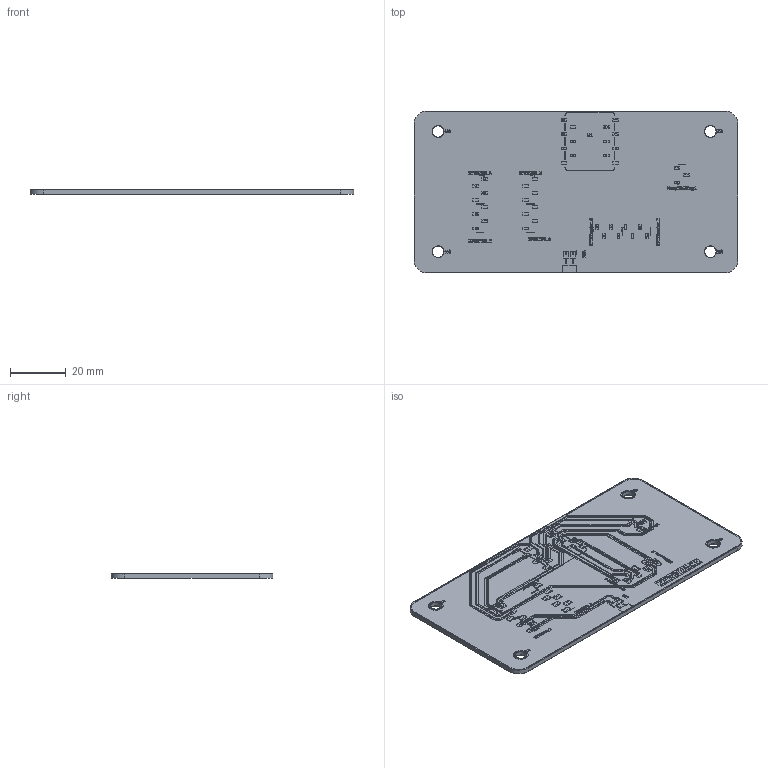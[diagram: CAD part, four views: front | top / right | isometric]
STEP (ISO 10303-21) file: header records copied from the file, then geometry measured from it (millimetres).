
FILE_DESCRIPTION(('KiCad electronic assembly'),'2;1');
FILE_NAME('final_pro.step','2026-05-11T16:51:19',('Pcbnew'),('Kicad'), 'Open CASCADE STEP processor 7.8','KiCad to STEP converter','Unknown' );
FILE_SCHEMA(('AUTOMOTIVE_DESIGN { 1 0 10303 214 1 1 1 1 }'));
Length unit declared in the file: millimetre
Products named in the file (7): final_pro 1; final_pro_copper; final_pro_pad; final_pro_silkscreen; final_pro_soldermask; final_pro_PCB
Assembly tree (6 placements, depth 2):
  final_pro 1
    final_pro_copper
    final_pro_pad
    final_pro_silkscreen
    final_pro_soldermask
    final_pro_soldermask
    final_pro_PCB
Bounding box: 116.33 x 58.17 x 1.64 mm (x, y, z)
Volume: 10301.9 mm3; surface area: 38691.5 mm2
Topology: 78 solids, 192 shells, 1847 faces, 6697 edges, 5120 vertices
Faces by surface type: plane 1476, cylinder 371
Full cylindrical faces by diameter (mm): 4.05 x12, 4.1 x8, 4.3 x8, 5.309 x4
Entity records: 73643 total; most frequent: CARTESIAN_POINT 13671, DIRECTION 11656, ORIENTED_EDGE 11428, EDGE_CURVE 6697, LINE 5446, VECTOR 5446, VERTEX_POINT 5120, AXIS2_PLACEMENT_3D 3105
